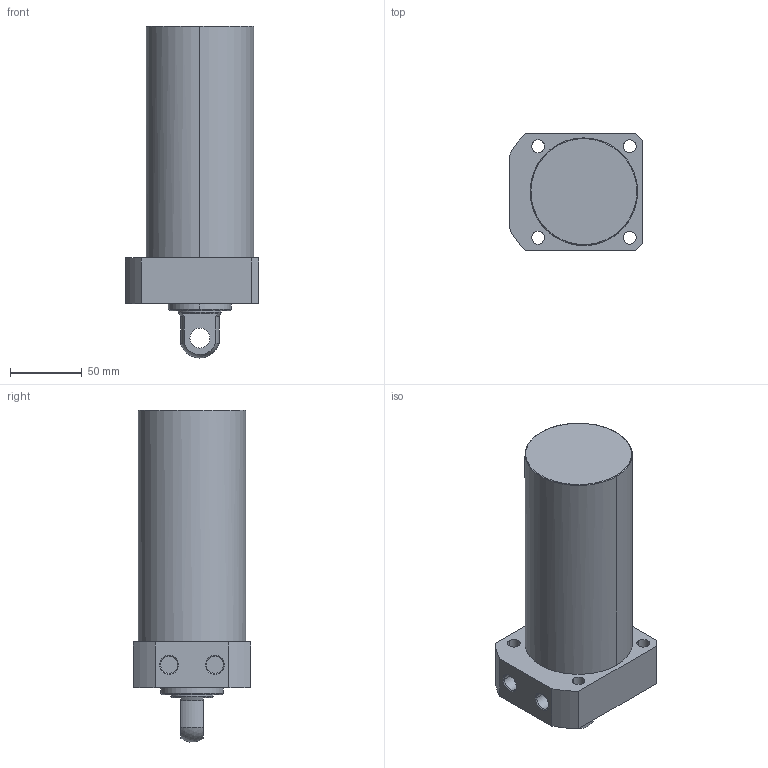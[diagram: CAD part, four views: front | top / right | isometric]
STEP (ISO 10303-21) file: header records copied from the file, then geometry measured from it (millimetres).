
FILE_DESCRIPTION((' '),'2;1');
FILE_NAME( 'TLLR-075CP-125.STEP.stp', '2025-10-24T16:35:16', (' '), ('--- Datakit www.datakit.com---'), ' Datakit CrossCadWare V2024.1 Dec 21 2023', 'Mastercam 2025', ' ');
FILE_SCHEMA(('AUTOMOTIVE_DESIGN { 1 0 10303 214 1 1 1 1 }'));
Length unit declared in the file: millimetre
Products named in the file (1): TLLR-075CP-125
Bounding box: 93 x 82 x 231.9 mm (x, y, z)
Volume: 959144.2 mm3; surface area: 71408.9 mm2
Topology: 1 solids, 1 shells, 57 faces, 164 edges, 116 vertices
Faces by surface type: cylinder 28, plane 18, cone 8, torus 2, sphere 1
Entity records: 2006 total; most frequent: DIRECTION 378, CARTESIAN_POINT 350, ORIENTED_EDGE 328, EDGE_CURVE 164, AXIS2_PLACEMENT_3D 160, VERTEX_POINT 116, CIRCLE 102, EDGE_LOOP 74
